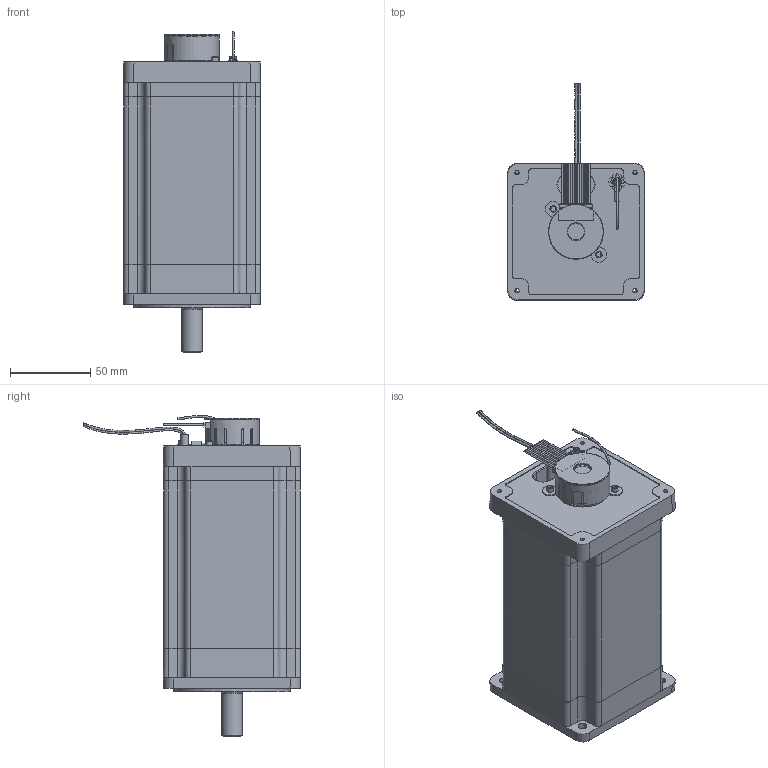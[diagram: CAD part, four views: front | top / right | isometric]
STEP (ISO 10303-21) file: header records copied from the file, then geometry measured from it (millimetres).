
FILE_DESCRIPTION((''),'2;1');
FILE_NAME('C:\CAD_work\Dummy_Modeling_Project_02-12-05\3D MODELS\BE344_FO.stp','2005-12-20T16:09:57',('jevans'),(''),'Autodesk Inventor 10','Autodesk Inventor 10','');
FILE_SCHEMA(('AUTOMOTIVE_DESIGN { 1 0 10303 214 1 1 1 1 }'));
Length unit declared in the file: inch
Products named in the file (1): BE34_FO
Bounding box: 85.66 x 135.58 x 200.56 mm (x, y, z)
Volume: 1002065.6 mm3; surface area: 88197.8 mm2
Topology: 7 solids, 7 shells, 620 faces, 1591 edges, 1038 vertices
Faces by surface type: plane 350, cylinder 146, bspline 108, cone 15, torus 1
Full cylindrical faces by diameter (mm): 1.016 x13, 1.27 x1, 2.159 x2, 2.5 x2, 3.02 x1, 3.871 x1, 4.013 x3, 4.762 x1, 4.953 x1, 9.525 x2, 10.16 x1, 10.312 x1, 11.176 x1, 12.7 x1, 14.994 x1, 15 x1, 32 x1, 32.007 x1, 32.995 x1, 34.036 x1, 35.001 x1, 36.779 x1, 37.109 x1, 41.326 x3, 73.025 x1
Entity records: 22557 total; most frequent: CARTESIAN_POINT 8311, ORIENTED_EDGE 2982, DIRECTION 2651, EDGE_CURVE 1491, VERTEX_POINT 1013, VECTOR 935, LINE 935, AXIS2_PLACEMENT_3D 858
